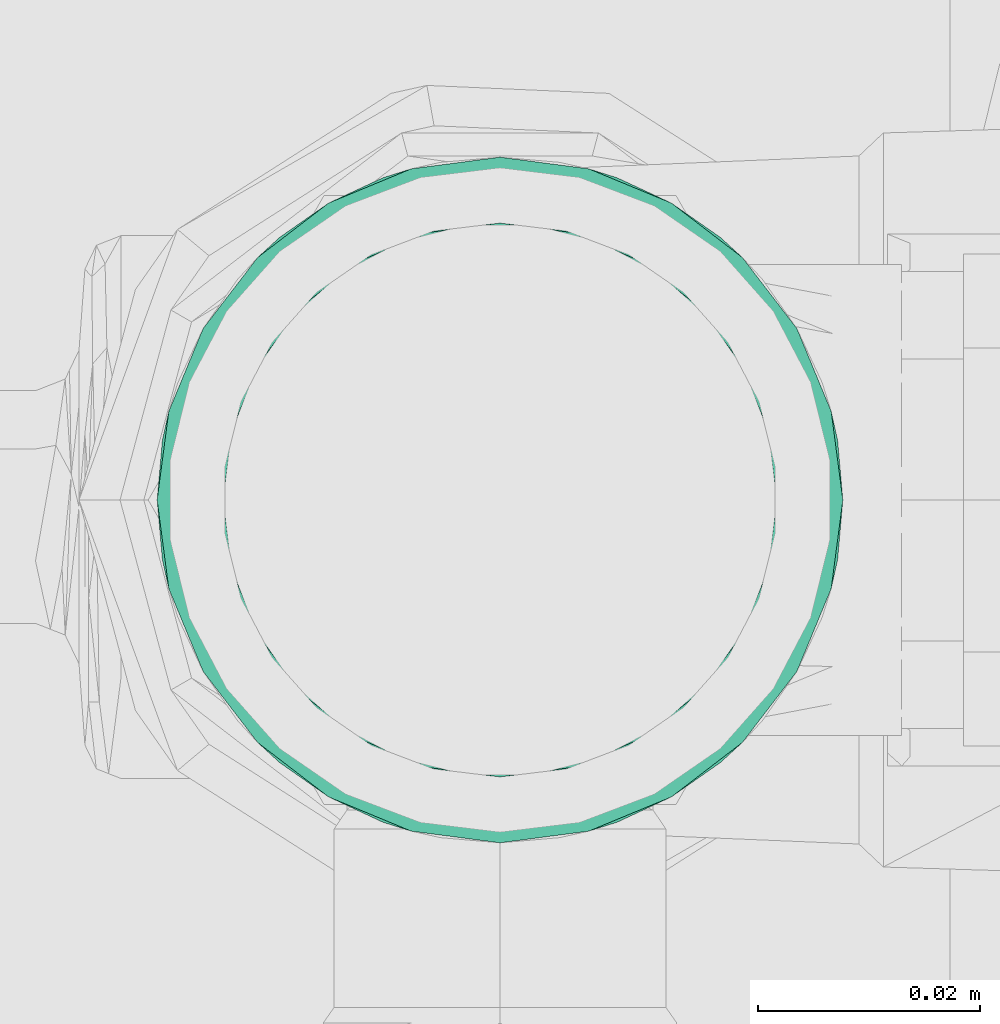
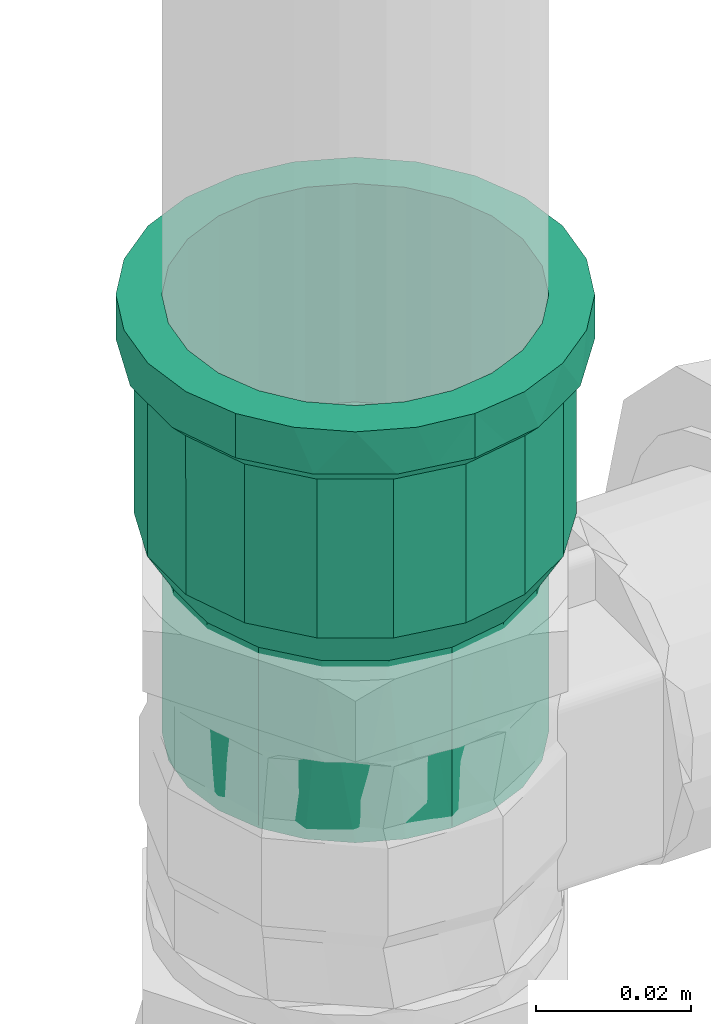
# One storey, part 88 of 589: 1 flow fitting.
"""IFC2X3 building model written with IfcOpenShell, lengths in millimetres."""

from ifc_helpers import new_model, entity, si_unit, converted_unit, derived_unit, direction, frame, origin, place, context, subcontext, project, spatial, faceted_brep, source, transform, mapped, material, type_object, type_shapes, element, save


model = new_model("IFC2X3")

# Units and contexts
model_context = context("Model", 3, precision=0.01, world=origin(), true_north=direction((6.123031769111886e-17, 1.0)))
body_context = subcontext(model_context, "Body", "Model", "MODEL_VIEW")
ifc_project = project(units=[si_unit("LENGTHUNIT", "METRE", prefix="MILLI"), si_unit("AREAUNIT", "SQUARE_METRE"), si_unit("VOLUMEUNIT", "CUBIC_METRE"), converted_unit("PLANEANGLEUNIT", "DEGREE", entity("IfcRatioMeasure", 0.017453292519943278), si_unit("PLANEANGLEUNIT", "RADIAN"), dimensions=[0, 0, 0, 0, 0, 0, 0]), si_unit("MASSUNIT", "GRAM", prefix="KILO"), derived_unit("MASSDENSITYUNIT", [(si_unit("MASSUNIT", "GRAM", prefix="KILO"), 1), (si_unit("LENGTHUNIT", "METRE"), -3)]), derived_unit("IONCONCENTRATIONUNIT", [(si_unit("MASSUNIT", "GRAM", prefix="KILO"), 1), (si_unit("LENGTHUNIT", "METRE"), -3)]), derived_unit("MOMENTOFINERTIAUNIT", [(si_unit("LENGTHUNIT", "METRE"), 4)]), si_unit("TIMEUNIT", "SECOND"), si_unit("FREQUENCYUNIT", "HERTZ"), si_unit("THERMODYNAMICTEMPERATUREUNIT", "DEGREE_CELSIUS"), derived_unit("THERMALTRANSMITTANCEUNIT", [(si_unit("MASSUNIT", "GRAM", prefix="KILO"), 1), (si_unit("THERMODYNAMICTEMPERATUREUNIT", "KELVIN"), -1), (si_unit("TIMEUNIT", "SECOND"), -3)]), derived_unit("THERMALCONDUCTANCEUNIT", [(si_unit("MASSUNIT", "GRAM", prefix="KILO"), 1), (si_unit("THERMODYNAMICTEMPERATUREUNIT", "KELVIN"), -1), (si_unit("TIMEUNIT", "SECOND"), -3), (si_unit("LENGTHUNIT", "METRE"), 1)]), derived_unit("VOLUMETRICFLOWRATEUNIT", [(si_unit("LENGTHUNIT", "METRE"), 3), (si_unit("TIMEUNIT", "SECOND"), -1)]), derived_unit("MASSFLOWRATEUNIT", [(si_unit("MASSUNIT", "GRAM", prefix="KILO"), 1), (si_unit("TIMEUNIT", "SECOND"), -1)]), derived_unit("ROTATIONALFREQUENCYUNIT", [(si_unit("TIMEUNIT", "SECOND"), -1)]), si_unit("ELECTRICCURRENTUNIT", "AMPERE"), si_unit("ELECTRICVOLTAGEUNIT", "VOLT"), si_unit("POWERUNIT", "WATT"), si_unit("FORCEUNIT", "NEWTON", prefix="KILO"), si_unit("ILLUMINANCEUNIT", "LUX"), si_unit("LUMINOUSFLUXUNIT", "LUMEN"), si_unit("LUMINOUSINTENSITYUNIT", "CANDELA"), derived_unit("USERDEFINED", [(si_unit("MASSUNIT", "GRAM", prefix="KILO"), -1), (si_unit("LENGTHUNIT", "METRE"), -2), (si_unit("TIMEUNIT", "SECOND"), 3), (si_unit("LUMINOUSFLUXUNIT", "LUMEN"), 1)]), derived_unit("USERDEFINED", [(si_unit("MASSUNIT", "GRAM", prefix="KILO"), 1), (si_unit("TIMEUNIT", "SECOND"), -3), (si_unit("LENGTHUNIT", "METRE"), 3), (si_unit("ELECTRICCURRENTUNIT", "AMPERE"), -2)]), derived_unit("SOUNDPOWERUNIT", [(si_unit("MASSUNIT", "GRAM", prefix="KILO"), 1), (si_unit("TIMEUNIT", "SECOND"), -3), (si_unit("LENGTHUNIT", "METRE"), 2)]), derived_unit("SOUNDPRESSUREUNIT", [(si_unit("MASSUNIT", "GRAM", prefix="KILO"), 1), (si_unit("LENGTHUNIT", "METRE"), -1), (si_unit("TIMEUNIT", "SECOND"), -2)]), derived_unit("LINEARVELOCITYUNIT", [(si_unit("LENGTHUNIT", "METRE"), 1), (si_unit("TIMEUNIT", "SECOND"), -1)]), si_unit("PRESSUREUNIT", "PASCAL"), derived_unit("USERDEFINED", [(si_unit("MASSUNIT", "GRAM", prefix="KILO"), 1), (si_unit("LENGTHUNIT", "METRE"), -2), (si_unit("TIMEUNIT", "SECOND"), -2)]), derived_unit("LINEARFORCEUNIT", [(si_unit("MASSUNIT", "GRAM", prefix="KILO"), 1), (si_unit("TIMEUNIT", "SECOND"), -2)]), derived_unit("PLANARFORCEUNIT", [(si_unit("MASSUNIT", "GRAM", prefix="KILO"), 1), (si_unit("LENGTHUNIT", "METRE"), -1), (si_unit("TIMEUNIT", "SECOND"), -2)]), derived_unit("SPECIFICHEATCAPACITYUNIT", [(si_unit("THERMODYNAMICTEMPERATUREUNIT", "KELVIN"), -1), (si_unit("LENGTHUNIT", "METRE"), 2), (si_unit("TIMEUNIT", "SECOND"), -2)]), derived_unit("HEATINGVALUEUNIT", [(si_unit("LENGTHUNIT", "METRE"), 2), (si_unit("TIMEUNIT", "SECOND"), -2)]), derived_unit("VAPORPERMEABILITYUNIT", [(si_unit("LENGTHUNIT", "METRE"), -1), (si_unit("TIMEUNIT", "SECOND"), 1)]), derived_unit("DYNAMICVISCOSITYUNIT", [(si_unit("MASSUNIT", "GRAM", prefix="KILO"), 1), (si_unit("TIMEUNIT", "SECOND"), -1), (si_unit("LENGTHUNIT", "METRE"), -1)]), derived_unit("THERMALEXPANSIONCOEFFICIENTUNIT", [(si_unit("THERMODYNAMICTEMPERATUREUNIT", "KELVIN"), -1)]), derived_unit("MODULUSOFELASTICITYUNIT", [(si_unit("MASSUNIT", "GRAM", prefix="KILO"), 1), (si_unit("LENGTHUNIT", "METRE"), -1), (si_unit("TIMEUNIT", "SECOND"), -2)]), derived_unit("ISOTHERMALMOISTURECAPACITYUNIT", [(si_unit("LENGTHUNIT", "METRE"), 3), (si_unit("MASSUNIT", "GRAM", prefix="KILO"), -1)]), derived_unit("MOISTUREDIFFUSIVITYUNIT", [(si_unit("TIMEUNIT", "SECOND"), -1), (si_unit("LENGTHUNIT", "METRE"), 2)])], contexts=[model_context])

# Site, building, storey
site_placement = place(None, origin())
site = spatial("IfcSite", under=ifc_project, at=site_placement, Name="Default", CompositionType="ELEMENT")
building_placement = place(site_placement, origin())
building = spatial("IfcBuilding", under=site, at=building_placement, CompositionType="ELEMENT")
storey_placement = place(building_placement, frame((0.0, 0.0, 100.0)))
storey = spatial("IfcBuildingStorey", under=building, at=storey_placement, Name="TÉRREO", CompositionType="ELEMENT", Elevation=100.0)

# Flow fitting
ifc_material = material(Name="PVC Marrom")
pipe_fitting_type = type_object("IfcPipeFittingType", Name="PVC Marrom Soldável_Adaptador Curto com Bolsa e Rosca Aninhado_Rodrigo MEP:Adaptador", PredefinedType="NOTDEFINED", material=ifc_material)
shared_shape = source(origin(), body_context, "Body", "Brep", [
    faceted_brep([(0.0, 12.499999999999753, -21.65063509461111), (0.0, 21.884954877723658, -21.88495487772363), (0.0, 15.475000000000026, -26.803486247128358), (0.0, 17.677669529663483, -17.6776695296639), (0.0, 6.470476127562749, -24.14814565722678), (0.0, 26.803486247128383, -15.474999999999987), (0.0, 21.650635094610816, -12.500000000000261), (0.0, 24.148145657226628, -6.470476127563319), (0.0, 29.895404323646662, -8.01044944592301), (0.0, 25.0, 0.0), (0.0, 30.95, 0.0), (0.0, 24.14814565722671, 6.470476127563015), (0.0, 29.895404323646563, 8.010449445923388), (0.0, 21.65063509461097, 12.499999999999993), (0.0, 26.80348624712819, 15.475000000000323), (0.0, 17.6776695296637, 17.677669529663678), (0.0, 21.884954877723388, 21.884954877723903), (0.0, 12.500000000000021, 21.65063509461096), (0.0, 15.474999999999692, 26.803486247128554), (0.0, 6.4704761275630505, 24.1481456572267), (0.0, 8.010449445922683, 29.89540432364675), (0.0, 0.0, 25.0), (0.0, 0.0, 30.95), (0.0, -6.4704761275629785, 24.14814565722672), (0.0, -8.010449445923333, 29.895404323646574), (0.0, -12.49999999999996, 21.650635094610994), (0.0, -15.475000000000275, 26.803486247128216), (0.0, -17.677669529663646, 17.67766952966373), (0.0, -21.884954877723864, 21.884954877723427), (0.0, -21.65063509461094, 12.500000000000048), (0.0, -26.803486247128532, 15.474999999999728), (0.0, -29.89540432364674, 8.010449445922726), (0.0, -24.14814565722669, 6.4704761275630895), (0.0, -30.95, 0.0), (0.0, -25.0, 0.0), (0.0, -29.895404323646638, -8.010449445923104), (0.0, -24.148145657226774, -6.470476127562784), (0.0, -26.803486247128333, -15.475000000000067), (0.0, -21.6506350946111, -12.499999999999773), (0.0, -21.884954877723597, -21.884954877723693), (0.0, -17.677669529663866, -17.67766952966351), (0.0, -15.474999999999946, -26.803486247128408), (0.0, -12.500000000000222, -21.650635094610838), (0.0, -8.010449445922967, -29.895404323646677), (0.0, -6.470476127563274, -24.148145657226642), (0.0, 0.0, -30.95), (0.0, 0.0, -25.0), (0.0, 8.010449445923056, -29.895404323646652), (7.0, -30.016595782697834, 5.29316701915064), (7.0, -29.88065133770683, 6.064083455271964), (7.0, -29.083191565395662, 10.586334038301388), (7.0, -23.70796650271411, 19.895598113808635), (7.0, -19.590362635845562, 23.350189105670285), (7.0, -26.395579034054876, 15.24096607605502), (7.0, -5.3710129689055, 30.480398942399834), (7.0, -10.421885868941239, 28.6425895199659), (7.0, -30.95, 0.0), (7.0, -15.472758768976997, 26.804780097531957), (7.0, 10.42907040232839, 28.639974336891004), (7.0, 15.479482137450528, 26.80089798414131), (7.0, 5.37865866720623, 30.479050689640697), (7.0, 19.596219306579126, 23.345274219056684), (7.0, 23.712956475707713, 19.889650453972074), (7.0, 29.08584618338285, 10.57903832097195), (7.0, 30.95, 0.0), (7.0, 26.39940132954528, 15.234344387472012), (7.0, 0.0038228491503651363, 30.47972481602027), (7.0, 29.08584618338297, -10.579038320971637), (7.0, 23.71295647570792, -19.88965045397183), (7.0, 19.596219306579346, -23.3452742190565), (7.0, 26.39940132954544, -15.234344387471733), (7.0, 5.378658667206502, -30.47905068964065), (7.0, 10.429070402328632, -28.639974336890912), (7.0, 15.47948213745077, -26.800897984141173), (7.0, -30.0165957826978, -5.2931670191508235), (7.0, -10.421885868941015, -28.642589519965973), (7.0, -15.472758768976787, -26.804780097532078), (7.0, -5.3710129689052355, -30.480398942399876), (7.0, -19.590362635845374, -23.350189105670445), (7.0, -23.707966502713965, -19.895598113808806), (7.0, -29.083191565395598, -10.58633403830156), (7.0, -29.88065131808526, -6.064083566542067), (7.0, -26.395579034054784, -15.240966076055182), (7.0, 0.003822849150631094, -30.479724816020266), (9.400000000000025, -26.87493630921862, 9.782525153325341), (9.400000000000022, -27.737468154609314, 4.891262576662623), (34.4499999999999, -26.875116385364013, 9.782030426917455), (9.40000000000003, -18.102887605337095, 21.577234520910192), (34.4499999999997, -14.299296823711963, 24.768732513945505), (9.400000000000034, -14.297928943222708, 24.769522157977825), (9.400000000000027, -24.391391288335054, 14.083736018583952), (34.44999999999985, -24.391819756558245, 14.083085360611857), (34.4499999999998, -21.908523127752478, 18.384140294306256), (34.44999999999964, -4.965271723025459, 28.165689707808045), (9.400000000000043, -4.963197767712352, 28.16605524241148), (9.400000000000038, -9.63056335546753, 26.467788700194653), (9.400000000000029, -21.907846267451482, 18.384946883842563), (9.40000000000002, -28.600000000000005, 0.0), (34.44999999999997, -27.796398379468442, 4.557325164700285), (34.44999999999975, -18.103909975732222, 21.57643640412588), (34.44999999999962, 4.967670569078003, 28.165266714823), (9.400000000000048, 0.003532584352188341, 28.165432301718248), (34.44999999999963, 0.0011994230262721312, 28.165478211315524), (34.44999999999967, -9.632284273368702, 26.46721111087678), (9.400000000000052, 4.970262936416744, 28.164809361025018), (9.400000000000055, 9.63720237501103, 26.465372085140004), (34.449999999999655, 14.301406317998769, 24.76751455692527), (9.40000000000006, 14.304141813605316, 24.765934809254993), (34.449999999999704, 18.105747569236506, 21.574894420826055), (34.44999999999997, -27.73755819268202, 4.891015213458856), (34.449999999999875, 26.875949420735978, 9.779741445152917), (34.450000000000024, 28.600000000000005, 0.0), (9.400000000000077, 26.87738936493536, 9.77578339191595), (34.449999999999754, 21.910088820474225, 18.38227428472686), (9.40000000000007, 21.91245735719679, 18.379450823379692), (9.400000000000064, 18.108299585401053, 21.57269281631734), (34.44999999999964, 9.634538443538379, 26.46639063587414), (9.400000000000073, 24.394923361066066, 14.077617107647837), (34.450000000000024, -28.600000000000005, 0.0), (9.40000000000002, 28.600000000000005, 0.0), (34.44999999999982, 24.3930191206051, 14.081007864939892), (9.40000000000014, 26.87738936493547, -9.77578339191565), (34.45000000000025, 26.87594942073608, -9.77974144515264), (9.400000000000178, -18.10288760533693, -21.577234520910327), (34.45000000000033, -14.299296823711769, -24.76873251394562), (34.45000000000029, -18.10390997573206, -21.57643640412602), (9.400000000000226, 18.108299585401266, -21.57269281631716), (9.400000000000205, 21.912457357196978, -18.37945082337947), (34.450000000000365, 21.910088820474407, -18.38227428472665), (9.400000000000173, 24.394923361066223, -14.077617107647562), (34.45000000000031, 24.393019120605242, -14.081007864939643), (9.40000000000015, -21.907846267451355, -18.384946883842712), (34.45000000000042, 0.0011994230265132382, -28.165478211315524), (9.400000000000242, -4.963197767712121, -28.166055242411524), (9.40000000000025, 0.0035325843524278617, -28.165432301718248), (9.40000000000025, 9.637202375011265, -26.46537208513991), (9.400000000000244, 14.304141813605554, -24.765934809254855), (34.45000000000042, 14.301406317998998, -24.76751455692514), (9.400000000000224, -9.63056335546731, -26.467788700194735), (34.45000000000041, -4.965271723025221, -28.165689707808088), (34.45000000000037, -9.632284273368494, -26.467211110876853), (34.45000000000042, 9.634538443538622, -26.46639063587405), (9.400000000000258, 4.970262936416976, -28.164809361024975), (9.400000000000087, -26.874936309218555, -9.782525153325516), (9.40000000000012, -24.391391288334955, -14.083736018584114), (34.45000000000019, -24.391819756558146, -14.083085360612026), (34.450000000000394, 18.1057475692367, -21.574894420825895), (34.450000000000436, 4.967670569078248, -28.16526671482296), (34.45000000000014, -26.875116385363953, -9.782030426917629), (34.45000000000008, -27.796398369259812, -4.557325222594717), (9.400000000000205, -14.297928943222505, -24.769522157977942), (9.400000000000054, -27.737468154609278, -4.891262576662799), (34.450000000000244, -21.908523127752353, -18.38414029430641), (34.45000000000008, -27.737558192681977, -4.891015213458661), (69.0, 6.4704761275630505, -24.1481456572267), (69.0, 12.500000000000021, -21.65063509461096), (69.0, 17.6776695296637, -17.677669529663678), (69.0, 21.650635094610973, -12.499999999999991), (69.0, 24.14814565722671, -6.470476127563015), (69.0, 25.0, 0.0), (69.0, 24.148145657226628, 6.470476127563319), (69.0, 21.650635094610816, 12.500000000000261), (69.0, 17.677669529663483, 17.6776695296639), (69.0, 12.499999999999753, 21.65063509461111), (69.0, 6.470476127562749, 24.14814565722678), (69.0, 0.0, 25.0), (69.0, -6.470476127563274, 24.148145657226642), (69.0, -12.500000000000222, 21.650635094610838), (69.0, -17.67766952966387, 17.677669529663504), (69.0, -21.650635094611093, 12.499999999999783), (69.0, -24.148145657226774, 6.470476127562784), (69.0, -25.0, 0.0), (69.0, -24.14814565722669, -6.4704761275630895), (69.0, -21.650635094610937, -12.500000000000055), (69.0, -17.677669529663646, -17.67766952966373), (69.0, -12.49999999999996, -21.650635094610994), (69.0, -6.4704761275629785, -24.14814565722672), (69.0, 0.0, -25.0), (40.499999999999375, -8.41832461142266, 23.136178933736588), (40.49999999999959, -19.1502152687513, 16.070757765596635), (40.49999999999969, -21.321146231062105, 12.310958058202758), (40.49999999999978, -23.492077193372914, 8.551158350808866), (40.49999999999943, -12.498189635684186, 21.651680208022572), (40.49999999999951, -15.824202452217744, 18.861218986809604), (40.49999999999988, -24.246038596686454, 4.2755791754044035), (40.49999999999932, -4.3384595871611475, 24.620677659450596), (40.499999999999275, 4.344635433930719, 24.61958860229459), (40.499999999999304, 0.003087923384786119, 24.620133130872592), (40.49999999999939, 15.828933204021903, 18.85724896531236), (40.49999999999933, 12.503620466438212, 21.648544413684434), (40.49999999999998, -25.0, 0.0), (40.49999999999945, 19.154245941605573, 16.065953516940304), (40.49999999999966, 23.494221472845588, 8.545265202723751), (40.499999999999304, 8.424127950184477, 23.13406650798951), (40.49999999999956, 21.324233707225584, 12.305609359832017), (40.49999999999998, 25.0, 0.0), (40.500000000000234, 19.15424594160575, -16.065953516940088), (40.500000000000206, -15.824202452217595, -18.861218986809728), (40.50000000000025, -12.498189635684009, -21.65168020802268), (40.500000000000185, 21.32423370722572, -12.305609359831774), (40.50000000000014, 23.494221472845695, -8.545265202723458), (40.5000000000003, 12.503620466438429, -21.64854441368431), (40.50000000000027, 15.82893320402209, -18.8572489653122), (40.50000000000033, 4.344635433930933, -24.619588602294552), (40.50000000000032, 8.42412795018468, -23.13406650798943), (40.5000000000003, -4.3384595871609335, -24.62067765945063), (40.50000000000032, 0.00308792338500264, -24.620133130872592), (40.50000000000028, -8.41832461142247, -23.136178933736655), (40.50000000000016, -19.150215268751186, -16.070757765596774), (40.50000000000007, -23.49207719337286, -8.551158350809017), (40.500000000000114, -21.321146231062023, -12.31095805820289), (40.50000000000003, -24.246038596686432, -4.275579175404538), (9.40000000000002, -25.0, 0.0), (34.450000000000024, -25.0, 0.0), (34.450000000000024, -24.14814565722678, -6.470476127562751), (9.40000000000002, -24.14814565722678, -6.470476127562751), (7.0, -24.14814565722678, -6.470476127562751), (7.0, -25.0, 0.0), (34.450000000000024, -21.650635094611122, -12.499999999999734), (9.40000000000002, -21.650635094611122, -12.499999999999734), (7.0, -21.650635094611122, -12.499999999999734), (9.40000000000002, -12.500000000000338, -21.65063509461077), (7.0, -12.500000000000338, -21.65063509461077), (7.0, -17.677669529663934, -17.677669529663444), (9.40000000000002, -17.677669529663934, -17.677669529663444), (34.450000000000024, -17.677669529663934, -17.677669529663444), (34.450000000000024, -12.500000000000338, -21.65063509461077), (9.40000000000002, -6.470476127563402, -24.148145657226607), (7.0, -6.470476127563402, -24.148145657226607), (34.450000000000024, -6.470476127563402, -24.148145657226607), (34.450000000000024, 0.0, -25.0), (9.40000000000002, 0.0, -25.0), (7.0, 0.0, -25.0), (34.450000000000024, 6.470476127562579, -24.148145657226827), (9.40000000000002, 6.470476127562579, -24.148145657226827), (7.0, 6.470476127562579, -24.148145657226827), (34.450000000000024, 12.49999999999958, -21.65063509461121), (9.40000000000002, 12.49999999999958, -21.65063509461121), (7.0, 12.49999999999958, -21.65063509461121), (34.450000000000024, 24.148145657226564, -6.470476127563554), (34.450000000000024, 25.0, 0.0), (9.40000000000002, 25.0, 0.0), (7.0, 25.0, 0.0), (7.0, 24.14814565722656, -6.470476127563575), (9.40000000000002, 24.148145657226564, -6.470476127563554), (34.450000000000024, 17.677669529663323, -17.677669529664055), (9.40000000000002, 17.677669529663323, -17.677669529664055), (7.0, 17.677669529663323, -17.677669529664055), (34.450000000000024, 21.650635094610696, -12.500000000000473), (9.40000000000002, 21.650635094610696, -12.500000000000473), (7.0, 21.650635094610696, -12.500000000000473), (34.450000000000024, 24.148145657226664, 6.470476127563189), (9.40000000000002, 24.148145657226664, 6.470476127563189), (7.0, 24.148145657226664, 6.470476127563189), (34.450000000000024, 21.65063509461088, 12.50000000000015), (9.40000000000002, 21.65063509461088, 12.50000000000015), (7.0, 21.65063509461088, 12.50000000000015), (9.40000000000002, 12.49999999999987, 21.650635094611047), (7.0, 12.49999999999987, 21.650635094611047), (7.0, 17.677669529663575, 17.677669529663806), (9.40000000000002, 17.677669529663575, 17.677669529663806), (34.450000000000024, 17.677669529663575, 17.677669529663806), (34.450000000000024, 12.49999999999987, 21.650635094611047), (9.40000000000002, 6.470476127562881, 24.14814565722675), (7.0, 6.470476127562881, 24.14814565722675), (34.450000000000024, 6.470476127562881, 24.14814565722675), (34.450000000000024, 0.0, 25.0), (9.40000000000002, 0.0, 25.0), (7.0, 0.0, 25.0), (9.40000000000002, -17.677669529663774, 17.677669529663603), (7.0, -17.677669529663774, 17.677669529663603), (7.0, -12.50000000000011, 21.650635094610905), (9.40000000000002, -12.50000000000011, 21.650635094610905), (34.450000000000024, -12.50000000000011, 21.650635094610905), (34.450000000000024, -17.677669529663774, 17.677669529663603), (9.40000000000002, -24.14814565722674, 6.470476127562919), (7.0, -24.14814565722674, 6.470476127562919), (7.0, -21.650635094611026, 12.499999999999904), (9.40000000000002, -21.650635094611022, 12.499999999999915), (34.450000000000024, -21.650635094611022, 12.499999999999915), (34.450000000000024, -24.14814565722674, 6.470476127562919), (7.0, -6.470476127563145, 24.148145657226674), (9.40000000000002, -6.470476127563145, 24.148145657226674), (34.450000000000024, -6.470476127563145, 24.148145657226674)], [[[0, 1, 2]], [[3, 1, 0]], [[4, 0, 2]], [[1, 3, 5]], [[5, 3, 6]], [[5, 6, 7]], [[8, 5, 7]], [[9, 8, 7]], [[10, 8, 9]], [[10, 9, 11]], [[12, 10, 11]], [[12, 11, 13]], [[14, 12, 13]], [[14, 13, 15]], [[15, 16, 14]], [[15, 17, 16]], [[18, 16, 17]], [[19, 18, 17]], [[18, 19, 20]], [[21, 20, 19]], [[22, 20, 21]], [[21, 23, 22]], [[24, 22, 23]], [[25, 24, 23]], [[24, 25, 26]], [[25, 27, 26]], [[27, 28, 26]], [[28, 27, 29]], [[28, 29, 30]], [[30, 29, 31]], [[31, 29, 32]], [[33, 31, 32]], [[32, 34, 33]], [[33, 34, 35]], [[34, 36, 35]], [[37, 35, 36]], [[37, 36, 38]], [[39, 37, 38]], [[40, 39, 38]], [[40, 41, 39]], [[42, 41, 40]], [[43, 41, 42]], [[42, 44, 43]], [[43, 44, 45]], [[44, 46, 45]], [[46, 4, 47]], [[45, 46, 47]], [[2, 47, 4]], [[31, 48, 49, 50]], [[28, 51, 52]], [[51, 30, 50, 53]], [[54, 24, 55]], [[30, 31, 50]], [[56, 48, 33]], [[52, 57, 26]], [[52, 26, 28]], [[30, 51, 28]], [[58, 59, 18]], [[58, 18, 20]], [[26, 57, 55]], [[26, 55, 24]], [[22, 24, 54]], [[33, 48, 31]], [[20, 60, 58]], [[16, 61, 62]], [[12, 63, 64]], [[63, 14, 62, 65]], [[12, 64, 10]], [[18, 61, 16]], [[22, 54, 66, 60]], [[22, 60, 20]], [[14, 16, 62]], [[59, 61, 18]], [[14, 63, 12]], [[8, 64, 67]], [[1, 68, 69]], [[68, 5, 67, 70]], [[71, 47, 72]], [[5, 8, 67]], [[8, 10, 64]], [[2, 72, 47]], [[69, 73, 2]], [[5, 68, 1]], [[74, 33, 35]], [[75, 76, 41]], [[2, 73, 72]], [[75, 41, 43]], [[45, 47, 71]], [[69, 2, 1]], [[43, 77, 75]], [[39, 78, 79]], [[35, 80, 81, 74]], [[80, 37, 79, 82]], [[37, 80, 35]], [[41, 78, 39]], [[45, 71, 83, 77]], [[45, 77, 43]], [[37, 39, 79]], [[76, 78, 41]], [[74, 56, 33]], [[84, 85, 86]], [[87, 88, 89]], [[90, 91, 92]], [[93, 94, 95]], [[92, 96, 90]], [[85, 97, 98]], [[99, 87, 96]], [[91, 84, 86]], [[100, 101, 102]], [[93, 95, 103]], [[89, 103, 95]], [[84, 91, 90]], [[100, 104, 101]], [[88, 87, 99]], [[105, 106, 107]], [[108, 107, 106]], [[85, 98, 109, 86]], [[102, 94, 93]], [[110, 111, 112]], [[113, 114, 115]], [[116, 104, 100]], [[112, 117, 110]], [[113, 115, 108]], [[104, 116, 105]], [[97, 118, 98]], [[115, 107, 108]], [[119, 112, 111]], [[99, 96, 92]], [[117, 114, 120]], [[110, 117, 120]], [[103, 89, 88]], [[102, 101, 94]], [[120, 114, 113]], [[106, 105, 116]], [[121, 111, 122]], [[123, 124, 125]], [[126, 127, 128]], [[129, 122, 130]], [[125, 131, 123]], [[129, 121, 122]], [[132, 133, 134]], [[135, 136, 137]], [[138, 139, 140]], [[119, 111, 121]], [[130, 127, 129]], [[141, 142, 135]], [[143, 144, 145]], [[126, 128, 146]], [[134, 147, 132]], [[135, 137, 141]], [[132, 139, 133]], [[138, 133, 139]], [[137, 136, 146]], [[143, 145, 148]], [[147, 142, 141]], [[149, 118, 97]], [[123, 150, 124]], [[124, 150, 140]], [[148, 151, 143]], [[146, 136, 126]], [[152, 144, 131]], [[151, 148, 153, 149]], [[144, 152, 145]], [[152, 131, 125]], [[142, 147, 134]], [[149, 97, 151]], [[128, 127, 130]], [[140, 150, 138]], [[154, 155, 156, 157, 158, 159, 160, 161, 162, 163, 164, 165, 166, 167, 168, 169, 170, 171, 172, 173, 174, 175, 176, 177]], [[178, 167, 166]], [[169, 168, 179]], [[169, 179, 180, 181]], [[182, 183, 167]], [[170, 181, 184]], [[166, 185, 178]], [[179, 168, 183]], [[165, 186, 187, 185]], [[165, 185, 166]], [[167, 183, 168]], [[188, 189, 163]], [[184, 171, 170]], [[184, 190, 171]], [[161, 191, 162]], [[169, 181, 170]], [[161, 160, 192]], [[163, 193, 164]], [[161, 192, 194, 191]], [[195, 160, 159]], [[164, 193, 186]], [[186, 165, 164]], [[189, 193, 163]], [[188, 163, 162]], [[162, 191, 188]], [[160, 195, 192]], [[178, 182, 167]], [[195, 159, 158]], [[157, 156, 196]], [[197, 198, 175]], [[157, 196, 199, 200]], [[201, 202, 155]], [[200, 195, 158]], [[154, 203, 204]], [[196, 156, 202]], [[177, 205, 206, 203]], [[197, 175, 174]], [[155, 202, 156]], [[204, 201, 155]], [[175, 198, 207]], [[157, 200, 158]], [[204, 155, 154]], [[173, 208, 174]], [[173, 172, 209]], [[173, 209, 210, 208]], [[171, 190, 211]], [[205, 177, 176]], [[207, 205, 176]], [[175, 207, 176]], [[174, 208, 197]], [[211, 209, 172]], [[171, 211, 172]], [[177, 203, 154]], [[212, 213, 214, 215, 216, 36, 34, 217]], [[215, 214, 218, 219, 220, 38, 36, 216]], [[221, 222, 42, 40, 223, 224, 225, 226]], [[225, 224, 223, 40, 38, 220, 219, 218]], [[227, 228, 44, 42, 222, 221, 226, 229]], [[227, 229, 230, 231, 232, 46, 44, 228]], [[231, 230, 233, 234, 235, 4, 46, 232]], [[234, 233, 236, 237, 238, 0, 4, 235]], [[239, 240, 241, 242, 9, 7, 243, 244]], [[237, 236, 245, 246, 247, 3, 0, 238]], [[245, 248, 249, 250, 6, 3, 247, 246]], [[248, 239, 244, 243, 7, 6, 250, 249]], [[241, 240, 251, 252, 253, 11, 9, 242]], [[252, 251, 254, 255, 256, 13, 11, 253]], [[257, 258, 17, 15, 259, 260, 261, 262]], [[261, 260, 259, 15, 13, 256, 255, 254]], [[263, 264, 19, 17, 258, 257, 262, 265]], [[263, 265, 266, 267, 268, 21, 19, 264]], [[269, 270, 27, 25, 271, 272, 273, 274]], [[275, 276, 32, 29, 277, 278, 279, 280]], [[274, 279, 278, 277, 29, 27, 270, 269]], [[212, 217, 34, 32, 276, 275, 280, 213]], [[273, 272, 271, 25, 23, 281, 282, 283]], [[267, 266, 283, 282, 281, 23, 21, 268]], [[64, 119, 121, 67]], [[81, 80, 143, 151, 97, 56, 74]], [[73, 136, 135, 142, 71, 72]], [[71, 142, 134, 133, 77, 83]], [[73, 69, 68, 127, 126, 136]], [[127, 68, 70, 67, 121, 129]], [[77, 133, 138, 150, 76, 75]], [[143, 80, 82, 79, 131, 144]], [[78, 76, 150, 123, 131, 79]], [[84, 50, 49, 48, 56, 97, 85]], [[53, 50, 84, 90, 96, 51]], [[52, 51, 96, 87, 89, 57]], [[89, 95, 94, 54, 55, 57]], [[101, 104, 60, 66, 54, 94]], [[105, 107, 59, 58, 60, 104]], [[112, 119, 64, 63]], [[114, 117, 112, 63, 65, 62]], [[107, 115, 114, 62, 61, 59]], [[233, 230, 229, 226, 225, 218, 214, 213, 280, 279, 274, 273, 283, 266, 265, 262, 261, 254, 251, 240, 239, 248, 245, 236]], [[190, 109, 98, 118]], [[184, 86, 109]], [[181, 86, 184]], [[185, 93, 178]], [[103, 88, 182]], [[99, 92, 179]], [[182, 88, 183]], [[91, 86, 181]], [[103, 182, 178]], [[178, 93, 103]], [[102, 185, 187]], [[180, 92, 91]], [[187, 100, 102]], [[91, 181, 180]], [[183, 88, 99]], [[99, 179, 183]], [[187, 186, 100]], [[191, 113, 188]], [[116, 100, 186]], [[179, 92, 180]], [[93, 185, 102]], [[189, 106, 193]], [[192, 195, 111]], [[120, 113, 191]], [[192, 110, 194]], [[108, 106, 189]], [[120, 191, 194]], [[194, 110, 120]], [[109, 190, 184]], [[188, 113, 108]], [[192, 111, 110]], [[108, 189, 188]], [[193, 106, 116]], [[116, 186, 193]], [[195, 200, 111]], [[203, 141, 204]], [[201, 146, 202]], [[196, 130, 199]], [[203, 147, 141]], [[201, 137, 146]], [[205, 132, 206]], [[196, 128, 130]], [[202, 128, 196]], [[111, 200, 122]], [[199, 130, 122]], [[146, 128, 202]], [[207, 139, 205]], [[206, 147, 203]], [[204, 141, 137]], [[199, 122, 200]], [[205, 139, 132]], [[204, 137, 201]], [[198, 124, 140]], [[198, 140, 207]], [[190, 153, 211]], [[209, 145, 210]], [[190, 118, 149, 153]], [[209, 148, 145]], [[208, 125, 197]], [[208, 152, 125]], [[210, 152, 208]], [[139, 207, 140]], [[125, 124, 197]], [[210, 145, 152]], [[211, 153, 148]], [[197, 124, 198]], [[206, 132, 147]], [[211, 148, 209]]]),
])
type_shapes(pipe_fitting_type, [shared_shape])
flow_fitting_placement = place(storey_placement, frame((-7562.714972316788, -528.9241377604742, 2275.0), z_axis=(1.0, 0.0, 0.0), x_axis=(0.0, 0.0, -1.0)))
element("IfcFlowFitting", 1, at=flow_fitting_placement, inside=storey, type_object=pipe_fitting_type, material=ifc_material, Name="PVC Marrom Soldável_Adaptador Curto com Bolsa e Rosca Aninhado_Rodrigo MEP:Adaptador", ObjectType="PVC Marrom Soldável_Adaptador Curto com Bolsa e Rosca Aninhado_Rodrigo MEP:Adaptador", context=body_context, shape_type="MappedRepresentation", body=[
    mapped(shared_shape, transform((0.0, 0.0, 0.0), scale=1.0)),
])

save(model, "model.ifc")
